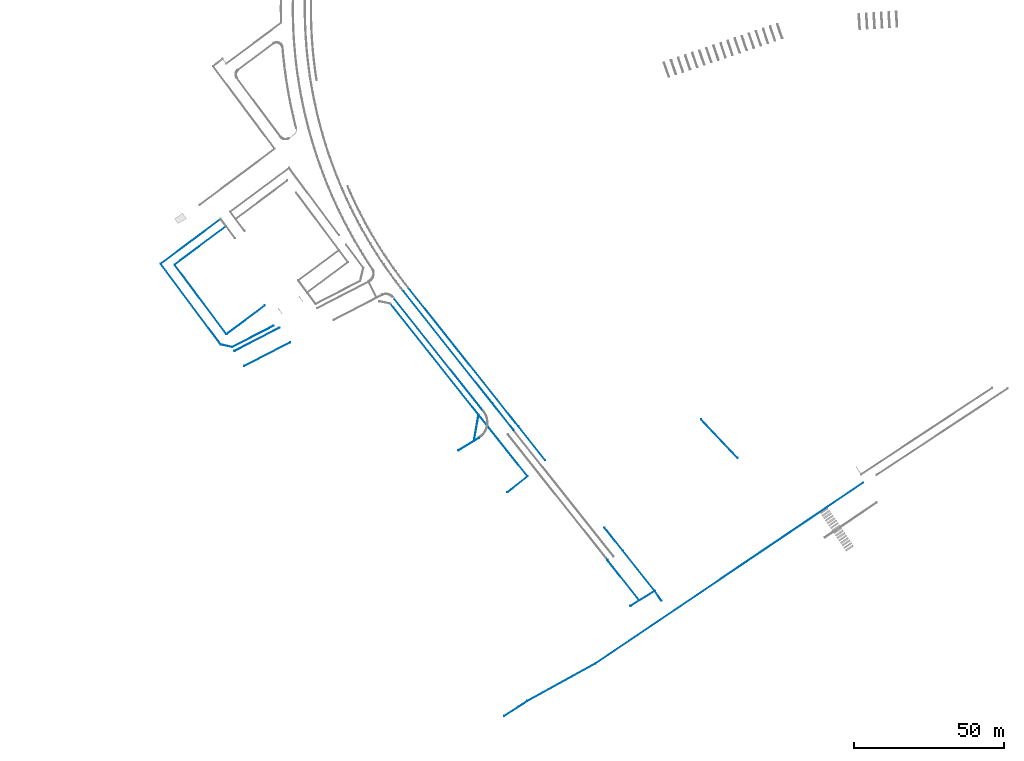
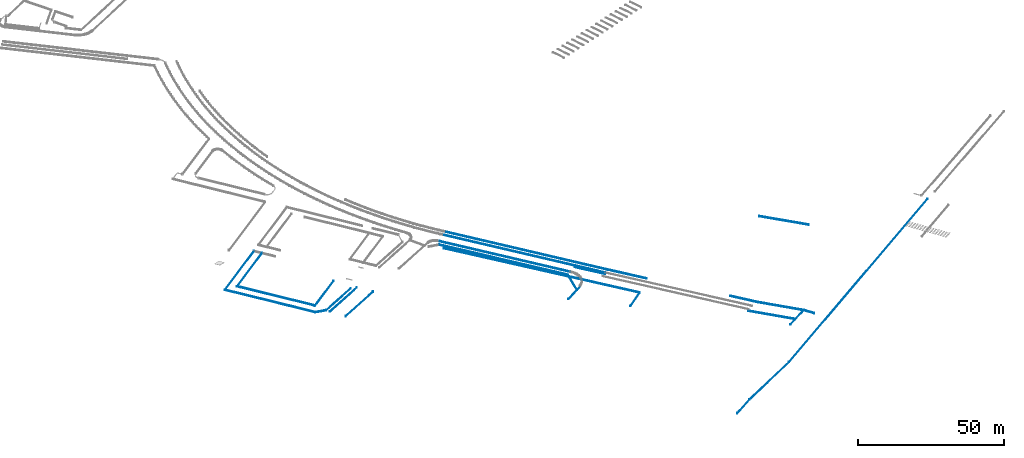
# One storey, part 1 of 24: 30 beams.
"""IFC2X3 building model written with IfcOpenShell, lengths in millimetres."""

from ifc_helpers import new_model, entity, si_unit, converted_unit, derived_unit, direction, frame, frame_2d, origin, origin_2d_with_axis, place, context, subcontext, project, spatial, polyline, rectangle, outline, extrude, material, type_object, element, save


model = new_model("IFC2X3")

# Units and contexts
model_context = context("Model", 3, precision=0.01, world=origin(), true_north=direction((6.123031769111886e-17, 1.0)))
body_context = subcontext(model_context, "Body", "Model", "MODEL_VIEW")
ifc_project = project(units=[si_unit("LENGTHUNIT", "METRE", prefix="MILLI"), si_unit("AREAUNIT", "SQUARE_METRE"), si_unit("VOLUMEUNIT", "CUBIC_METRE"), converted_unit("PLANEANGLEUNIT", "DEGREE", entity("IfcRatioMeasure", 0.017453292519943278), si_unit("PLANEANGLEUNIT", "RADIAN"), dimensions=[0, 0, 0, 0, 0, 0, 0]), si_unit("MASSUNIT", "GRAM", prefix="KILO"), derived_unit("MASSDENSITYUNIT", [(si_unit("MASSUNIT", "GRAM", prefix="KILO"), 1), (si_unit("LENGTHUNIT", "METRE"), -3)]), derived_unit("MOMENTOFINERTIAUNIT", [(si_unit("LENGTHUNIT", "METRE"), 4)]), si_unit("TIMEUNIT", "SECOND"), si_unit("FREQUENCYUNIT", "HERTZ"), si_unit("THERMODYNAMICTEMPERATUREUNIT", "DEGREE_CELSIUS"), derived_unit("THERMALTRANSMITTANCEUNIT", [(si_unit("MASSUNIT", "GRAM", prefix="KILO"), 1), (si_unit("THERMODYNAMICTEMPERATUREUNIT", "KELVIN"), -1), (si_unit("TIMEUNIT", "SECOND"), -3)]), derived_unit("THERMALCONDUCTANCEUNIT", [(si_unit("MASSUNIT", "GRAM", prefix="KILO"), 1), (si_unit("LENGTHUNIT", "METRE"), 1), (si_unit("THERMODYNAMICTEMPERATUREUNIT", "KELVIN"), -1), (si_unit("TIMEUNIT", "SECOND"), -3)]), derived_unit("VOLUMETRICFLOWRATEUNIT", [(si_unit("LENGTHUNIT", "METRE"), 3), (si_unit("TIMEUNIT", "SECOND"), -1)]), derived_unit("MASSFLOWRATEUNIT", [(si_unit("MASSUNIT", "GRAM", prefix="KILO"), 1), (si_unit("TIMEUNIT", "SECOND"), -1)]), derived_unit("ROTATIONALFREQUENCYUNIT", [(si_unit("TIMEUNIT", "SECOND"), -1)]), si_unit("ELECTRICCURRENTUNIT", "AMPERE"), si_unit("ELECTRICVOLTAGEUNIT", "VOLT"), si_unit("POWERUNIT", "WATT"), converted_unit("FORCEUNIT", "KIP", entity("IfcRatioMeasure", 2.088543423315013e-05), si_unit("FORCEUNIT", "NEWTON"), dimensions=[1, 1, -2, 0, 0, 0, 0]), si_unit("ILLUMINANCEUNIT", "LUX"), si_unit("LUMINOUSFLUXUNIT", "LUMEN"), si_unit("LUMINOUSINTENSITYUNIT", "CANDELA"), derived_unit("USERDEFINED", [(si_unit("MASSUNIT", "GRAM", prefix="KILO"), -1), (si_unit("LENGTHUNIT", "METRE"), -2), (si_unit("TIMEUNIT", "SECOND"), 3), (si_unit("LUMINOUSFLUXUNIT", "LUMEN"), 1)]), derived_unit("USERDEFINED", [(si_unit("MASSUNIT", "GRAM", prefix="KILO"), 1), (si_unit("LENGTHUNIT", "METRE"), 3), (si_unit("TIMEUNIT", "SECOND"), -3), (si_unit("ELECTRICCURRENTUNIT", "AMPERE"), -2)]), derived_unit("USERDEFINED", [(si_unit("LENGTHUNIT", "METRE"), 2), (si_unit("TIMEUNIT", "SECOND"), -2)]), derived_unit("SOUNDPOWERUNIT", [(si_unit("MASSUNIT", "GRAM", prefix="KILO"), 1), (si_unit("LENGTHUNIT", "METRE"), 2), (si_unit("TIMEUNIT", "SECOND"), -3)]), derived_unit("SOUNDPRESSUREUNIT", [(si_unit("MASSUNIT", "GRAM", prefix="KILO"), 1), (si_unit("LENGTHUNIT", "METRE"), -1), (si_unit("TIMEUNIT", "SECOND"), -2)]), derived_unit("LINEARVELOCITYUNIT", [(si_unit("LENGTHUNIT", "METRE"), 1), (si_unit("TIMEUNIT", "SECOND"), -1)]), si_unit("PRESSUREUNIT", "PASCAL"), derived_unit("USERDEFINED", [(si_unit("LENGTHUNIT", "METRE"), -2), (si_unit("MASSUNIT", "GRAM", prefix="KILO"), 1), (si_unit("TIMEUNIT", "SECOND"), -2)]), derived_unit("LINEARFORCEUNIT", [(si_unit("MASSUNIT", "GRAM", prefix="KILO"), 1), (si_unit("LENGTHUNIT", "METRE"), 1), (si_unit("TIMEUNIT", "SECOND"), -2), (si_unit("LENGTHUNIT", "METRE"), -1)]), derived_unit("PLANARFORCEUNIT", [(si_unit("MASSUNIT", "GRAM", prefix="KILO"), 1), (si_unit("LENGTHUNIT", "METRE"), 1), (si_unit("TIMEUNIT", "SECOND"), -2), (si_unit("LENGTHUNIT", "METRE"), -2)]), derived_unit("SPECIFICHEATCAPACITYUNIT", [(si_unit("LENGTHUNIT", "METRE"), 2), (si_unit("TIMEUNIT", "SECOND"), -2), (si_unit("THERMODYNAMICTEMPERATUREUNIT", "KELVIN"), -1)]), derived_unit("VAPORPERMEABILITYUNIT", [(si_unit("TIMEUNIT", "SECOND"), 1), (si_unit("LENGTHUNIT", "METRE"), -1)]), derived_unit("DYNAMICVISCOSITYUNIT", [(si_unit("MASSUNIT", "GRAM", prefix="KILO"), 1), (si_unit("LENGTHUNIT", "METRE"), -1), (si_unit("TIMEUNIT", "SECOND"), -1)]), derived_unit("THERMALEXPANSIONCOEFFICIENTUNIT", [(si_unit("THERMODYNAMICTEMPERATUREUNIT", "KELVIN"), -1)])], contexts=[model_context])

# Site, building, storey
site_placement = place(None, frame((0.0, 0.0, 0.0), z_axis=(0.0, 0.0, 1.0), x_axis=(0.8191520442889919, 0.5735764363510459, 0.0)))
site = spatial("IfcSite", under=ifc_project, at=site_placement, Name="Default", CompositionType="ELEMENT")
building_placement = place(site_placement, origin())
building = spatial("IfcBuilding", under=site, at=building_placement, CompositionType="ELEMENT")
storey_placement = place(building_placement, frame((0.0, 0.0, -1150.0)))
storey = spatial("IfcBuildingStorey", under=building, at=storey_placement, Name="6.EG KH -1.15", CompositionType="ELEMENT", Elevation=-1150.0000000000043)

# Beams
ifc_material_1 = material(Name="Paint-01")
beam_type_1 = type_object("IfcBeamType", Name="Beam-166 262471:Beam-166 262471", PredefinedType="NOTDEFINED")
beam_1_placement = place(storey_placement, origin())
element("IfcBeam", 1, at=beam_1_placement, inside=storey, type_object=beam_type_1, material=ifc_material_1, Name="Beam-166", ObjectType="Beam-166 262471:Beam-166 262471", context=body_context, shape_type="SweptSolid", body=[
    extrude(outline(polyline([(-4478.227049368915, -125.0), (4490.328925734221, -125.0), (4478.227049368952, 125.0), (-4490.328925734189, 125.0), (-4478.227049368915, -125.0)])), frame((-167026.27546984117, -63104.106419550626, 441.6724557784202), z_axis=(-0.7071067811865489, 0.7071067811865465, 0.0), x_axis=(-0.7062797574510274, -0.7062797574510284, -0.04835088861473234)), (0.0, 0.0, 1.0), 100.00000000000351),
])
beam_type_2 = type_object("IfcBeamType", Name="Beam-166 262426:Beam-166 262426", PredefinedType="NOTDEFINED")
beam_2_placement = place(storey_placement, origin())
element("IfcBeam", 2, at=beam_2_placement, inside=storey, type_object=beam_type_2, material=ifc_material_1, Name="Beam-166", ObjectType="Beam-166 262426:Beam-166 262426", context=body_context, shape_type="SweptSolid", body=[
    extrude(outline(polyline([(-5666.409172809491, -125.0), (5664.25563940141, -125.0), (5666.409172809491, 125.0), (-5664.255639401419, 125.0), (-5666.409172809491, -125.0)])), frame((-157614.2255740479, -65205.77807556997, 583.7954822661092), z_axis=(0.9981911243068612, 0.06012054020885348, 0.0), x_axis=(0.06011830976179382, -0.9981540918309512, -0.008613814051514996)), (0.0, 0.0, 1.0), 100.00000000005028),
])
beam_type_3 = type_object("IfcBeamType", Name="Beam-166 262416:Beam-166 262416", PredefinedType="NOTDEFINED")
beam_3_placement = place(storey_placement, origin())
element("IfcBeam", 3, at=beam_3_placement, inside=storey, type_object=beam_type_3, material=ifc_material_1, Name="Beam-166", ObjectType="Beam-166 262416:Beam-166 262416", context=body_context, shape_type="SweptSolid", body=[
    extrude(outline(polyline([(-4002.0458231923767, -125.0), (4007.4037490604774, -125.0), (4002.0458231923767, 125.0), (-4007.4037490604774, 125.0), (-4002.0458231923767, -125.0)])), frame((-172250.26082305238, -66148.64781059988, 239.16292621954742), z_axis=(0.06287686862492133, 0.9980212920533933, 0.0), x_axis=(-0.9977921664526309, 0.06286243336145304, -0.02142678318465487)), (0.0, 0.0, 1.0), 99.9999999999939),
])
beam_type_4 = type_object("IfcBeamType", Name="Beam-166 237960:Beam-166 237960", PredefinedType="NOTDEFINED")
beam_4_placement = place(storey_placement, origin())
element("IfcBeam", 4, at=beam_4_placement, inside=storey, type_object=beam_type_4, material=ifc_material_1, Name="Beam-166", ObjectType="Beam-166 237960:Beam-166 237960", context=body_context, shape_type="SweptSolid", body=[
    extrude(outline(polyline([(-5669.866119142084, -125.0), (5667.76480529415, -125.0), (5669.866119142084, 125.0), (-5667.764805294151, 125.0), (-5669.866119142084, -125.0)])), frame((-155617.63332433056, -65089.023678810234, 581.3469943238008), z_axis=(0.9981911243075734, 0.06012054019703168, 0.0), x_axis=(0.06011841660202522, -0.9981558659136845, -0.00840495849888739)), (0.0, 0.0, 1.0), 100.00000000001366),
])
ifc_material_2 = material(Name="Paveta_bordur")
beam_type_5 = type_object("IfcBeamType", Name="Beam-152 237727:Beam-152 237727", PredefinedType="NOTDEFINED")
beam_5_placement = place(storey_placement, origin())
element("IfcBeam", 5, at=beam_5_placement, inside=storey, type_object=beam_type_5, material=ifc_material_2, Name="Beam-152", ObjectType="Beam-152 237727:Beam-152 237727", context=body_context, shape_type="SweptSolid", body=[
    extrude(rectangle(XDim=250.00000000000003, YDim=99.99999999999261, at=frame_2d((0.0, -3.623767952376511e-13), x_axis=(1.0, 0.0))), frame((-218433.01027040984, 5850.504071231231, 1035.0), z_axis=(-0.6693093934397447, 0.7429838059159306, 0.0), x_axis=(0.0, 0.0, -1.0)), (0.0, 0.0, 1.0), 3880.8652999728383),
])
beam_type_6 = type_object("IfcBeamType", Name="Beam-150 237704:Beam-150 237704", PredefinedType="NOTDEFINED")
beam_6_placement = place(storey_placement, origin())
element("IfcBeam", 6, at=beam_6_placement, inside=storey, type_object=beam_type_6, material=ifc_material_2, Name="Beam-150", ObjectType="Beam-150 237704:Beam-150 237704", context=body_context, shape_type="SweptSolid", body=[
    extrude(rectangle(XDim=250.00000000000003, YDim=100.00000000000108, at=frame_2d((0.0, 4.330757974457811e-12), x_axis=(1.0, 0.0))), frame((-222035.9900826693, 42366.667297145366, 1035.0), z_axis=(0.9995533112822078, 0.02988608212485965, 0.0), x_axis=(0.0, 0.0, -1.0)), (0.0, 0.0, 1.0), 25075.927132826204),
])
beam_type_7 = type_object("IfcBeamType", Name="Beam-153 237699:Beam-153 237699", PredefinedType="NOTDEFINED")
beam_7_placement = place(storey_placement, origin())
element("IfcBeam", 7, at=beam_7_placement, inside=storey, type_object=beam_type_7, material=ifc_material_2, Name="Beam-153", ObjectType="Beam-153 237699:Beam-153 237699", context=body_context, shape_type="SweptSolid", body=[
    extrude(rectangle(XDim=250.00000000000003, YDim=99.99999999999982, at=frame_2d((4.462208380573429e-12, 0.0), x_axis=(0.0, 1.0))), frame((-218433.01027040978, 5850.504071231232, 1035.0), z_axis=(0.991018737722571, -0.1337230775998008, 0.0), x_axis=(-0.1337230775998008, -0.991018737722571, 0.0)), (0.0, 0.0, 1.0), 15529.080289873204),
])
beam_type_8 = type_object("IfcBeamType", Name="Beam-151 237698:Beam-151 237698", PredefinedType="NOTDEFINED")
beam_8_placement = place(storey_placement, origin())
element("IfcBeam", 8, at=beam_8_placement, inside=storey, type_object=beam_type_8, material=ifc_material_2, Name="Beam-151", ObjectType="Beam-151 237698:Beam-151 237698", context=body_context, shape_type="SweptSolid", body=[
    extrude(rectangle(XDim=250.00000000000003, YDim=99.99999999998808, at=origin_2d_with_axis()), frame((-221030.50987035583, 8733.924142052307, 1035.0), z_axis=(-0.029882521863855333, 0.9995534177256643, 0.0), x_axis=(0.0, 0.0, -1.0)), (0.0, 0.0, 1.0), 33647.76965259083),
])
beam_type_9 = type_object("IfcBeamType", Name="Beam-157 237669:Beam-157 237669", PredefinedType="NOTDEFINED")
beam_9_placement = place(storey_placement, origin())
element("IfcBeam", 9, at=beam_9_placement, inside=storey, type_object=beam_type_9, material=ifc_material_2, Name="Beam-157", ObjectType="Beam-157 237669:Beam-157 237669", context=body_context, shape_type="SweptSolid", body=[
    extrude(rectangle(XDim=250.00000000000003, YDim=100.00000000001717, at=frame_2d((-1.7347900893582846e-11, 0.0), x_axis=(0.0, 1.0))), frame((-217505.55811563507, 10487.982455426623, 1035.0), z_axis=(-0.02987876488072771, 0.9995535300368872, 0.0), x_axis=(0.9995535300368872, 0.02987876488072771, 0.0)), (0.0, 0.0, 1.0), 29000.004087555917),
])
beam_type_10 = type_object("IfcBeamType", Name="Beam-156 237664:Beam-156 237664", PredefinedType="NOTDEFINED")
beam_10_placement = place(storey_placement, origin())
element("IfcBeam", 10, at=beam_10_placement, inside=storey, type_object=beam_type_10, material=ifc_material_2, Name="Beam-156", ObjectType="Beam-156 237664:Beam-156 237664", context=body_context, shape_type="SweptSolid", body=[
    extrude(rectangle(XDim=250.00000000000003, YDim=99.99999999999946, at=frame_2d((0.0, -1.5987211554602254e-12), x_axis=(1.0, 0.0))), frame((-217505.558115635, 10487.982455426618, 1035.0), z_axis=(0.9995535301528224, 0.029878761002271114, 0.0), x_axis=(0.0, 0.0, -1.0)), (0.0, 0.0, 1.0), 16000.005361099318),
])
beam_type_11 = type_object("IfcBeamType", Name="Beam-158 237658:Beam-158 237658", PredefinedType="NOTDEFINED")
beam_11_placement = place(storey_placement, origin())
element("IfcBeam", 11, at=beam_11_placement, inside=storey, type_object=beam_type_11, material=ifc_material_2, Name="Beam-158", ObjectType="Beam-158 237658:Beam-158 237658", context=body_context, shape_type="SweptSolid", body=[
    extrude(rectangle(XDim=250.00000000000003, YDim=99.99999999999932, at=frame_2d((-5.151434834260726e-13, 0.0), x_axis=(0.0, 1.0))), frame((-218372.04241930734, 39475.03891222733, 1035.0), z_axis=(0.9995535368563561, 0.029878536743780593, 0.0), x_axis=(0.029878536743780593, -0.9995535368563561, 0.0)), (0.0, 0.0, 1.0), 21500.012836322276),
])
beam_type_12 = type_object("IfcBeamType", Name="Beam-166 237614:Beam-166 237614", PredefinedType="NOTDEFINED")
beam_12_placement = place(storey_placement, origin())
element("IfcBeam", 12, at=beam_12_placement, inside=storey, type_object=beam_type_12, material=ifc_material_2, Name="Beam-166", ObjectType="Beam-166 237614:Beam-166 237614", context=body_context, shape_type="SweptSolid", body=[
    extrude(rectangle(XDim=250.00000000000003, YDim=99.99999999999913, at=frame_2d((-4.192202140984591e-12, 0.0), x_axis=(0.0, 1.0))), frame((-218526.6201906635, 4349.551450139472, 1035.0), z_axis=(0.9910186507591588, -0.133723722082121, 0.0), x_axis=(-0.133723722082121, -0.9910186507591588, 0.0)), (0.0, 0.0, 1.0), 16941.53919676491),
])
beam_type_13 = type_object("IfcBeamType", Name="Beam-166 237602:Beam-166 237602", PredefinedType="NOTDEFINED")
beam_13_placement = place(storey_placement, origin())
element("IfcBeam", 13, at=beam_13_placement, inside=storey, type_object=beam_type_13, material=ifc_material_1, Name="Beam-166", ObjectType="Beam-166 237602:Beam-166 237602", context=body_context, shape_type="SweptSolid", body=[
    extrude(outline(polyline([(-23939.300807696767, -125.0), (23937.188665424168, -125.0), (23939.300807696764, 125.0), (-23937.188665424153, 125.0), (-23939.300807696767, -125.0)])), frame((-163386.7091245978, -35897.2948309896, 832.7588419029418), z_axis=(0.9981911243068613, 0.060120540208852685, 0.0), x_axis=(0.06011839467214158, -0.9981555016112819, -0.008448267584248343)), (0.0, 0.0, 1.0), 100.00000000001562),
])
beam_type_14 = type_object("IfcBeamType", Name="Beam-167 237598:Beam-167 237598", PredefinedType="NOTDEFINED")
beam_14_placement = place(storey_placement, origin())
element("IfcBeam", 14, at=beam_14_placement, inside=storey, type_object=beam_type_14, material=ifc_material_2, Name="Beam-167", ObjectType="Beam-167 237598:Beam-167 237598", context=body_context, shape_type="SweptSolid", body=[
    extrude(rectangle(XDim=250.00000000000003, YDim=100.00000000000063, at=frame_2d((0.0, -1.3855583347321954e-13), x_axis=(1.0, 0.0))), frame((-218749.09632109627, -1674.8049843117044, 1035.0), z_axis=(0.9910186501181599, -0.13372372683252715, 0.0), x_axis=(0.0, 0.0, -1.0)), (0.0, 0.0, 1.0), 17287.02362769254),
])
beam_type_15 = type_object("IfcBeamType", Name="Beam-166 237585:Beam-166 237585", PredefinedType="NOTDEFINED")
beam_15_placement = place(storey_placement, origin())
element("IfcBeam", 15, at=beam_15_placement, inside=storey, type_object=beam_type_15, material=ifc_material_1, Name="Beam-166", ObjectType="Beam-166 237585:Beam-166 237585", context=body_context, shape_type="SweptSolid", body=[
    extrude(outline(polyline([(-23939.28665659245, -125.0), (23937.185342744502, -125.0), (23939.286656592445, 125.0), (-23937.185342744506, 125.0), (-23939.28665659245, -125.0)])), frame((-159393.9446273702, -35656.81267015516, 833.7957044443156), z_axis=(0.9981911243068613, 0.060120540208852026, 0.0), x_axis=(0.060118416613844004, -0.9981558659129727, -0.008404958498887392)), (0.0, 0.0, 1.0), 100.00000000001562),
])
beam_type_16 = type_object("IfcBeamType", Name="Beam-171 237566:Beam-171 237566", PredefinedType="NOTDEFINED")
beam_16_placement = place(storey_placement, origin())
element("IfcBeam", 16, at=beam_16_placement, inside=storey, type_object=beam_type_16, material=ifc_material_2, Name="Beam-171", ObjectType="Beam-171 237566:Beam-171 237566", context=body_context, shape_type="SweptSolid", body=[
    extrude(rectangle(XDim=250.00000000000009, YDim=100.00000000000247, at=frame_2d((5.222489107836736e-13, 2.842170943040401e-14), x_axis=(0.0, 1.0))), frame((-154360.0345462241, -85137.47856611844, 554.9470470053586), z_axis=(-0.06012054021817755, 0.9981911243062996, 0.0), x_axis=(0.9981911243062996, 0.06012054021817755, 0.0)), (0.0, 0.0, 1.0), 14419.182015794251),
])
beam_type_17 = type_object("IfcBeamType", Name="Beam-171 237565:Beam-171 237565", PredefinedType="NOTDEFINED")
beam_17_placement = place(storey_placement, origin())
element("IfcBeam", 17, at=beam_17_placement, inside=storey, type_object=beam_type_17, material=ifc_material_2, Name="Beam-171", ObjectType="Beam-171 237565:Beam-171 237565", context=body_context, shape_type="SweptSolid", body=[
    extrude(rectangle(XDim=250.00000000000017, YDim=100.00000000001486, at=frame_2d((2.5934809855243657e-13, 6.394884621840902e-14), x_axis=(0.0, 1.0))), frame((-157223.3058069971, -70864.62013860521, 35.0), z_axis=(-0.060120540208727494, 0.9981911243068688, 0.0), x_axis=(0.9981911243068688, 0.060120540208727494, 0.0)), (0.0, 0.0, 1.0), 11337.230453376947),
])
beam_type_18 = type_object("IfcBeamType", Name="Beam-166 237564:Beam-166 237564", PredefinedType="NOTDEFINED")
beam_18_placement = place(storey_placement, origin())
element("IfcBeam", 18, at=beam_18_placement, inside=storey, type_object=beam_type_18, material=ifc_material_1, Name="Beam-166", ObjectType="Beam-166 237564:Beam-166 237564", context=body_context, shape_type="SweptSolid", body=[
    extrude(outline(polyline([(-23671.099626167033, -125.0), (23668.934358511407, -125.0), (23671.099626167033, 125.0), (-23668.93435851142, 125.0), (-23671.099626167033, -125.0)])), frame((-165367.38643246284, -36278.28760143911, 829.9953117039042), z_axis=(0.9981911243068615, 0.06012054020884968, 0.0), x_axis=(0.06011828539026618, -0.998153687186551, -0.008660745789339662)), (0.0, 0.0, 1.0), 100.00000000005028),
])
beam_type_19 = type_object("IfcBeamType", Name="Beam-169 237546:Beam-169 237546", PredefinedType="NOTDEFINED")
beam_19_placement = place(storey_placement, origin())
element("IfcBeam", 19, at=beam_19_placement, inside=storey, type_object=beam_type_19, material=ifc_material_2, Name="Beam-169", ObjectType="Beam-169 237546:Beam-169 237546", context=body_context, shape_type="SweptSolid", body=[
    extrude(rectangle(XDim=250.00000000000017, YDim=100.00000000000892, at=frame_2d((-6.394884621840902e-14, 1.0480505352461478e-12), x_axis=(1.0, 0.0))), frame((-170848.94596989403, -86712.46777226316, 35.0), z_axis=(0.9981911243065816, 0.06012054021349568, 0.0), x_axis=(0.0, 0.0, -1.0)), (0.0, 0.0, 1.0), 8553.774234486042),
])
beam_type_20 = type_object("IfcBeamType", Name="Beam-172 237541:Beam-172 237541", PredefinedType="NOTDEFINED")
beam_20_placement = place(storey_placement, origin())
element("IfcBeam", 20, at=beam_20_placement, inside=storey, type_object=beam_type_20, material=ifc_material_1, Name="Beam-172", ObjectType="Beam-172 237541:Beam-172 237541", context=body_context, shape_type="SweptSolid", body=[
    extrude(outline(polyline([(-8633.664744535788, -125.0), (8648.009830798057, -125.0), (8633.664744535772, 125.0), (-8648.009830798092, 125.0), (-8633.664744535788, -125.0)])), frame((-149995.99855006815, -133476.0661455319, 539.7943876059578), z_axis=(0.9981911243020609, 0.060120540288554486, 0.0), x_axis=(-0.060021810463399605, 0.996551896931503, -0.05728611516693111)), (0.0, 0.0, 1.0), 100.00000000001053),
])
beam_type_21 = type_object("IfcBeamType", Name="Beam-171 237540:Beam-171 237540", PredefinedType="NOTDEFINED")
beam_21_placement = place(storey_placement, origin())
element("IfcBeam", 21, at=beam_21_placement, inside=storey, type_object=beam_type_21, material=ifc_material_2, Name="Beam-171", ObjectType="Beam-171 237540:Beam-171 237540", context=body_context, shape_type="SweptSolid", body=[
    extrude(rectangle(XDim=250.00000000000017, YDim=99.9999999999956, at=frame_2d((0.0, 6.394884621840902e-14), x_axis=(0.0, 1.0))), frame((-150464.7276917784, -124862.0173284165, 35.0), z_axis=(-0.06012054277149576, 0.9981911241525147, 0.0), x_axis=(0.9981911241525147, 0.06012054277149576, 0.0)), (0.0, 0.0, 1.0), 9886.869992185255),
])
beam_type_22 = type_object("IfcBeamType", Name="Beam-169 237536:Beam-169 237536", PredefinedType="NOTDEFINED")
beam_22_placement = place(storey_placement, origin())
element("IfcBeam", 22, at=beam_22_placement, inside=storey, type_object=beam_type_22, material=ifc_material_2, Name="Beam-169", ObjectType="Beam-169 237536:Beam-169 237536", context=body_context, shape_type="SweptSolid", body=[
    extrude(rectangle(XDim=250.00000000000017, YDim=100.0000000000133, at=frame_2d((-6.394884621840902e-14, -5.258016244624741e-13), x_axis=(1.0, 0.0))), frame((-162310.6444497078, -86198.21024442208, 35.0), z_axis=(-0.06012054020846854, 0.9981911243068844, 0.0), x_axis=(0.0, 0.0, -1.0)), (0.0, 0.0, 1.0), 71918.85989620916),
])
beam_type_23 = type_object("IfcBeamType", Name="Beam-172 237525:Beam-172 237525", PredefinedType="NOTDEFINED")
beam_23_placement = place(storey_placement, origin())
element("IfcBeam", 23, at=beam_23_placement, inside=storey, type_object=beam_type_23, material=ifc_material_2, Name="Beam-172", ObjectType="Beam-172 237525:Beam-172 237525", context=body_context, shape_type="SweptSolid", body=[
    extrude(rectangle(XDim=250.0, YDim=100.0000000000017, at=frame_2d((0.0, 1.4210854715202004e-14), x_axis=(0.0, 1.0))), frame((-149493.3201651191, -145997.2468103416, 1035.0), z_axis=(0.016830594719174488, 0.9998583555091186, 0.0), x_axis=(0.9998583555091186, -0.016830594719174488, 0.0)), (0.0, 0.0, 1.0), 3913.698255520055),
])
beam_type_24 = type_object("IfcBeamType", Name="Beam-173 237520:Beam-173 237520", PredefinedType="NOTDEFINED")
beam_24_placement = place(storey_placement, origin())
element("IfcBeam", 24, at=beam_24_placement, inside=storey, type_object=beam_type_24, material=ifc_material_2, Name="Beam-173", ObjectType="Beam-173 237520:Beam-173 237520", context=body_context, shape_type="SweptSolid", body=[
    extrude(rectangle(XDim=250.0, YDim=100.00000000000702, at=frame_2d((1.4210854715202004e-14, -9.592326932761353e-13), x_axis=(1.0, 0.0))), frame((-159013.69143626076, -141442.9239021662, 1035.0), z_axis=(0.9984582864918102, -0.05550720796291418, 0.0), x_axis=(0.0, 0.0, -1.0)), (0.0, 0.0, 1.0), 9594.491235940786),
])
beam_type_25 = type_object("IfcBeamType", Name="Beam-172 237515:Beam-172 237515", PredefinedType="NOTDEFINED")
beam_25_placement = place(storey_placement, origin())
element("IfcBeam", 25, at=beam_25_placement, inside=storey, type_object=beam_type_25, material=ifc_material_1, Name="Beam-172", ObjectType="Beam-172 237515:Beam-172 237515", context=body_context, shape_type="SweptSolid", body=[
    extrude(outline(polyline([(-8583.365045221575, -125.0), (8597.710131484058, -125.0), (8583.365045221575, 125.0), (-8597.710131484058, 125.0), (-8583.365045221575, -125.0)])), frame((-156036.64080052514, -132981.8013342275, 536.9129132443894), z_axis=(0.9981911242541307, 0.06012054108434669, 0.0), x_axis=(0.06002181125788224, -0.9965518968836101, 0.0572861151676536)), (0.0, 0.0, 1.0), 100.00000000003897),
])
beam_type_26 = type_object("IfcBeamType", Name="Beam-146 236684:Beam-146 236684", PredefinedType="NOTDEFINED")
beam_26_placement = place(storey_placement, origin())
element("IfcBeam", 26, at=beam_26_placement, inside=storey, type_object=beam_type_26, material=ifc_material_2, Name="Beam-146", ObjectType="Beam-146 236684:Beam-146 236684", context=body_context, shape_type="SweptSolid", body=[
    extrude(rectangle(XDim=250.0, YDim=100.00000000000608, at=frame_2d((0.0, 1.4210854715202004e-14), x_axis=(0.0, 1.0))), frame((-205464.3666129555, -147706.2028674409, 1035.0), z_axis=(0.9942934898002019, -0.10667922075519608, 0.0), x_axis=(-0.10667922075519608, -0.9942934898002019, 0.0)), (0.0, 0.0, 1.0), 26123.334998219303),
])
beam_type_27 = type_object("IfcBeamType", Name="Beam-145 236680:Beam-145 236680", PredefinedType="NOTDEFINED")
beam_27_placement = place(storey_placement, origin())
element("IfcBeam", 27, at=beam_27_placement, inside=storey, type_object=beam_type_27, material=ifc_material_2, Name="Beam-145", ObjectType="Beam-145 236680:Beam-145 236680", context=body_context, shape_type="SweptSolid", body=[
    extrude(rectangle(XDim=250.0, YDim=100.0000000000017, at=frame_2d((0.0, 1.4210854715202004e-14), x_axis=(0.0, 1.0))), frame((-179490.1046923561, -150493.019888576, 1035.0), z_axis=(0.9998583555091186, -0.016830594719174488, 0.0), x_axis=(-0.016830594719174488, -0.9998583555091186, 0.0)), (0.0, 0.0, 1.0), 107947.34711189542),
])
beam_type_28 = type_object("IfcBeamType", Name="Beam-147 236671:Beam-147 236671", PredefinedType="NOTDEFINED")
beam_28_placement = place(storey_placement, origin())
element("IfcBeam", 28, at=beam_28_placement, inside=storey, type_object=beam_type_28, material=ifc_material_2, Name="Beam-147", ObjectType="Beam-147 236671:Beam-147 236671", context=body_context, shape_type="SweptSolid", body=[
    extrude(rectangle(XDim=250.0, YDim=100.00000000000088, at=frame_2d((8.65796323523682e-12, 1.4210854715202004e-14), x_axis=(0.0, 1.0))), frame((-214623.9082980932, -147367.4189796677, 1035.0), z_axis=(0.9993166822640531, -0.03696171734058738, 0.0), x_axis=(-0.03696171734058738, -0.9993166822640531, 0.0)), (0.0, 0.0, 1.0), 9165.80484215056),
])
beam_type_29 = type_object("IfcBeamType", Name="Beam-166 235956:Beam-166 235956", PredefinedType="NOTDEFINED")
beam_29_placement = place(storey_placement, origin())
element("IfcBeam", 29, at=beam_29_placement, inside=storey, type_object=beam_type_29, material=ifc_material_1, Name="Beam-166", ObjectType="Beam-166 235956:Beam-166 235956", context=body_context, shape_type="SweptSolid", body=[
    extrude(outline(polyline([(-23939.28665661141, -125.0), (23937.185342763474, -125.0), (23939.28665661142, 125.0), (-23937.185342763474, 125.0), (-23939.28665661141, -125.0)])), frame((-157397.56237875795, -35536.571589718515, 833.7957044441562), z_axis=(0.9981911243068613, 0.060120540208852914, 0.0), x_axis=(0.06011841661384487, -0.9981558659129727, -0.00840495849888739)), (0.0, 0.0, 1.0), 100.00000000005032),
])
beam_type_30 = type_object("IfcBeamType", Name="Beam-180 57452:Beam-180 57452", PredefinedType="NOTDEFINED")
beam_30_placement = place(storey_placement, origin())
element("IfcBeam", 30, at=beam_30_placement, inside=storey, type_object=beam_type_30, material=ifc_material_2, Name="Beam-180", ObjectType="Beam-180 57452:Beam-180 57452", context=body_context, shape_type="SweptSolid", body=[
    extrude(rectangle(XDim=249.9999999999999, YDim=99.99999999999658, at=frame_2d((7.105427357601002e-14, 8.569145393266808e-12), x_axis=(1.0, 0.0))), frame((-101241.24516690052, -121420.91911947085, 35.0), z_axis=(-0.14723235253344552, 0.9891019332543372, 0.0), x_axis=(0.0, 0.0, -1.0)), (0.0, 0.0, 1.0), 17687.363756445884),
])

save(model, "model.ifc")
